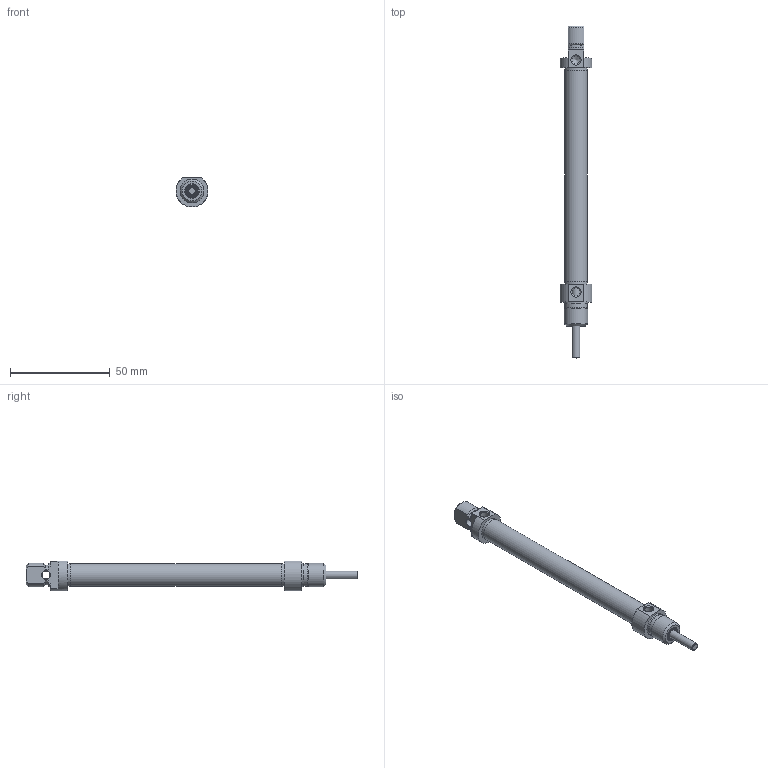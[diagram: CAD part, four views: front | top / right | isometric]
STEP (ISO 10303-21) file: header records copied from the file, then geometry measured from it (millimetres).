
FILE_DESCRIPTION((''),'2;1');
FILE_NAME('T:\Archivio Inventor\- 00 NUOVI STP PER SITO CON STELO CHE SI MUOVE\SERIE O\ODM\ODM010.---.GS.M\ODM010.080.GS.M.stp','2014-02-25T14:20:13',('carlo.corazza'),(''),'Autodesk Inventor 2012','Autodesk Inventor 2012','');
FILE_SCHEMA(('AUTOMOTIVE_DESIGN { 1 0 10303 214 1 1 1 1 }'));
Length unit declared in the file: millimetre
Products named in the file (5): ODM010..GS.M; TP; CORPO-080; TA; STELO-080
Assembly tree (4 placements, depth 2):
  ODM010..GS.M
    TP
    CORPO-080
    TA
    STELO-080
Bounding box: 16 x 166 x 15 mm (x, y, z)
Volume: 9089.4 mm3; surface area: 12115.6 mm2
Topology: 4 solids, 4 shells, 90 faces, 185 edges, 118 vertices
Faces by surface type: plane 32, cylinder 28, cone 23, torus 7
Full cylindrical faces by diameter (mm): 3 x1, 4 x2, 4.134 x2, 4.426 x1, 4.7 x1, 6.5 x1, 6.6 x1, 6.7 x1, 8.1 x1, 8.2 x1, 10 x1, 11.2 x3, 11.27 x1, 12 x2
Entity records: 2347 total; most frequent: CARTESIAN_POINT 410, DIRECTION 404, ORIENTED_EDGE 260, AXIS2_PLACEMENT_3D 184, EDGE_LOOP 154, EDGE_CURVE 130, VERTEX_POINT 108, FACE_OUTER_BOUND 90
